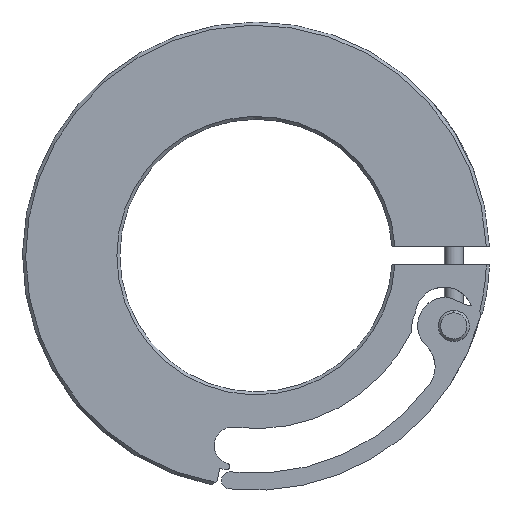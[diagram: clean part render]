
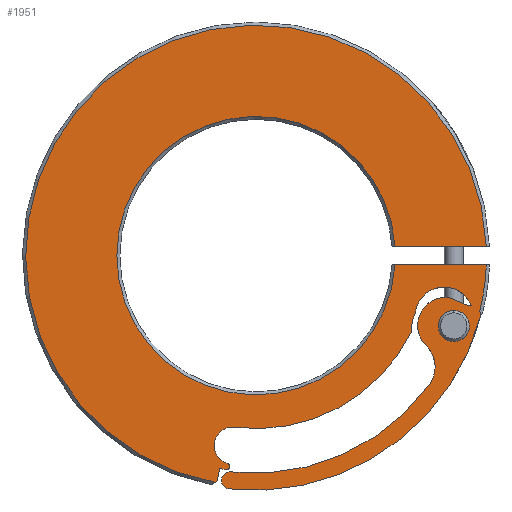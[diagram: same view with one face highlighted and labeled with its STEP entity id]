
A CAD part, front view. The second image highlights one B-rep face of the part: STEP entity #1951.
In plain terms, the highlighted planar face has unit normal (0, -1, 0).
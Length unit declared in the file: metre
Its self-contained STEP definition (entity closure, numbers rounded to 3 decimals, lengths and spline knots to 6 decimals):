
#330=CARTESIAN_POINT('',(-0.046163,0.005306,
0.029751));
#332=CARTESIAN_POINT('',(-0.052796,0.005306,
0.026042));
#333=DIRECTION('',(0.,-1.,0.));
#334=DIRECTION('',(0.049,0.,0.999));
#335=AXIS2_PLACEMENT_3D('',#332,#333,#334);
#337=CARTESIAN_POINT('',(-0.052796,0.005306,
0.026042));
#338=DIRECTION('',(0.,-1.,0.));
#339=DIRECTION('',(-0.049,0.,-0.999));
#340=AXIS2_PLACEMENT_3D('',#337,#338,#339);
#342=CARTESIAN_POINT('',(-0.048449,0.005306,
0.0288));
#343=DIRECTION('',(0.,1.,0.));
#344=DIRECTION('',(-0.187,0.,0.982));
#345=AXIS2_PLACEMENT_3D('',#342,#343,#344);
#347=CARTESIAN_POINT('',(-0.056673,0.005306,
0.024663));
#348=DIRECTION('',(0.,-1.,0.));
#349=DIRECTION('',(0.785,0.,0.62));
#350=AXIS2_PLACEMENT_3D('',#347,#348,#349);
#352=CARTESIAN_POINT('',(-0.055282,0.005306,
0.028534));
#353=DIRECTION('',(0.,-1.,0.));
#354=DIRECTION('',(0.927,0.,0.375));
#355=AXIS2_PLACEMENT_3D('',#352,#353,#354);
#357=CARTESIAN_POINT('',(-0.05426,0.005306,
0.025171));
#358=DIRECTION('',(0.,-1.,0.));
#359=DIRECTION('',(-0.901,0.,0.435));
#360=AXIS2_PLACEMENT_3D('',#357,#358,#359);
#362=CARTESIAN_POINT('',(-0.103583,0.005306,
0.044104));
#363=DIRECTION('',(0.,1.,0.));
#364=DIRECTION('',(0.899,0.,-0.439));
#365=AXIS2_PLACEMENT_3D('',#362,#363,#364);
#367=CARTESIAN_POINT('',(-0.109579,0.005306,
-0.004729));
#368=DIRECTION('',(0.,-1.,0.));
#369=DIRECTION('',(0.053,0.,0.999));
#370=AXIS2_PLACEMENT_3D('',#367,#368,#369);
#372=CARTESIAN_POINT('',(-0.111195,0.005306,
-0.010058));
#373=DIRECTION('',(0.,1.,0.));
#374=DIRECTION('',(0.29,0.,0.957));
#375=AXIS2_PLACEMENT_3D('',#372,#373,#374);
#377=CARTESIAN_POINT('',(-0.103583,0.005306,
0.044104));
#378=DIRECTION('',(0.,1.,0.));
#379=DIRECTION('',(-0.138,0.,-0.99));
#380=AXIS2_PLACEMENT_3D('',#377,#378,#379);
#382=DIRECTION('',(-0.199,0.,-0.98));
#383=VECTOR('',#382,0.003233);
#384=CARTESIAN_POINT('',(-0.112916,0.005306,
-0.010605));
#385=LINE('',#384,#383);
#386=DIRECTION('',(-0.834,0.,-0.552));
#387=VECTOR('',#386,0.000663);
#388=CARTESIAN_POINT('',(-0.11356,0.005306,
-0.013773));
#389=LINE('',#388,#387);
#390=CARTESIAN_POINT('',(-0.103583,0.005306,
0.044104));
#391=DIRECTION('',(0.,1.,0.));
#392=DIRECTION('',(-0.178,0.,-0.984));
#393=AXIS2_PLACEMENT_3D('',#390,#391,#392);
#395=DIRECTION('',(-1.,0.,0.));
#396=VECTOR('',#395,0.023457);
#397=CARTESIAN_POINT('',(-0.044444,0.005306,
0.046485));
#398=LINE('',#397,#396);
#399=CARTESIAN_POINT('',(-0.103583,0.005306,
0.044104));
#400=DIRECTION('',(0.,-1.,0.));
#401=DIRECTION('',(0.998,0.,0.067));
#402=AXIS2_PLACEMENT_3D('',#399,#400,#401);
#404=CARTESIAN_POINT('',(-0.103583,0.005306,
0.044104));
#405=DIRECTION('',(0.,1.,0.));
#406=DIRECTION('',(0.999,0.,-0.04));
#407=AXIS2_PLACEMENT_3D('',#404,#405,#406);
#409=CARTESIAN_POINT('',(-0.048449,0.005306,
0.0288));
#410=DIRECTION('',(0.,1.,0.));
#411=DIRECTION('',(0.923,0.,0.384));
#412=AXIS2_PLACEMENT_3D('',#409,#410,#411);
#414=CARTESIAN_POINT('',(-0.103976,0.005306,
0.043825));
#415=DIRECTION('',(0.,1.,0.));
#416=DIRECTION('',(0.965,0.,-0.261));
#417=AXIS2_PLACEMENT_3D('',#414,#415,#416);
#419=CARTESIAN_POINT('',(-0.110313,0.005306,
-0.013642));
#420=DIRECTION('',(0.,1.,0.));
#421=DIRECTION('',(-0.049,0.,-0.999));
#422=AXIS2_PLACEMENT_3D('',#419,#420,#421);
#424=CARTESIAN_POINT('',(-0.103976,0.005306,
0.043825));
#425=DIRECTION('',(0.,-1.,0.));
#426=DIRECTION('',(-0.11,0.,-0.994));
#427=AXIS2_PLACEMENT_3D('',#424,#425,#426);
#429=CARTESIAN_POINT('',(-0.065213,0.005306,
0.015504));
#430=DIRECTION('',(0.,-1.,0.));
#431=DIRECTION('',(0.807,0.,-0.59));
#432=AXIS2_PLACEMENT_3D('',#429,#430,#431);
#434=CARTESIAN_POINT('',(-0.054839,0.005306,
0.026142));
#435=DIRECTION('',(0.,1.,0.));
#436=DIRECTION('',(-0.698,0.,-0.716));
#437=AXIS2_PLACEMENT_3D('',#434,#435,#436);
#439=DIRECTION('',(0.922,0.,-0.387));
#440=VECTOR('',#439,0.005374);
#441=CARTESIAN_POINT('',(-0.053866,0.005306,
0.033315));
#442=LINE('',#441,#440);
#765=CARTESIAN_POINT('',(-0.044444,0.005306,
0.041723));
#767=DIRECTION('',(-1.,0.,0.));
#768=VECTOR('',#767,0.023457);
#769=CARTESIAN_POINT('',(-0.044444,0.005306,
0.041723));
#770=LINE('',#769,#768);
#902=CARTESIAN_POINT('',(-0.0679,0.005306,
0.046485));
#936=CARTESIAN_POINT('',(-0.114113,0.005306,
-0.014139));
#1373=CARTESIAN_POINT('',(-0.053866,0.005306,
0.033315));
#1374=VERTEX_POINT('',#1373);
#1375=CARTESIAN_POINT('',(-0.059893,0.005306,
0.020959));
#1376=VERTEX_POINT('',#1375);
#1385=CARTESIAN_POINT('',(-0.052601,0.005306,
0.030037));
#1386=CARTESIAN_POINT('',(-0.05299,0.005306,
0.022047));
#1387=VERTEX_POINT('',#1385);
#1388=VERTEX_POINT('',#1386);
#1389=CARTESIAN_POINT('',(-0.048911,0.005306,
0.031233));
#1390=VERTEX_POINT('',#1389);
#1391=CARTESIAN_POINT('',(-0.059061,0.005306,
0.011009));
#1392=VERTEX_POINT('',#1391);
#1397=CARTESIAN_POINT('',(-0.046059,0.005306,
0.028153));
#1398=CARTESIAN_POINT('',(-0.110419,0.005306,
-0.015828));
#1399=VERTEX_POINT('',#1397);
#1400=VERTEX_POINT('',#1398);
#1429=CARTESIAN_POINT('',(-0.110073,0.005306,
-0.011466));
#1430=VERTEX_POINT('',#1429);
#1447=VERTEX_POINT('',#902);
#1448=CARTESIAN_POINT('',(-0.044444,0.005306,
0.046485));
#1449=VERTEX_POINT('',#1448);
#1485=VERTEX_POINT('',#936);
#1486=CARTESIAN_POINT('',(-0.11356,0.005306,
-0.013773));
#1487=VERTEX_POINT('',#1486);
#1488=CARTESIAN_POINT('',(-0.062724,0.005306,
0.029255));
#1489=CARTESIAN_POINT('',(-0.063641,0.005306,
0.0246));
#1490=VERTEX_POINT('',#1488);
#1491=VERTEX_POINT('',#1489);
#1492=CARTESIAN_POINT('',(-0.109328,0.005306,
0.000027));
#1493=CARTESIAN_POINT('',(-0.110961,0.005306,
-0.009287));
#1494=VERTEX_POINT('',#1492);
#1495=VERTEX_POINT('',#1493);
#1496=CARTESIAN_POINT('',(-0.111247,0.005306,
-0.010863));
#1497=CARTESIAN_POINT('',(-0.112916,0.005306,
-0.010605));
#1498=VERTEX_POINT('',#1496);
#1499=VERTEX_POINT('',#1497);
#1501=CARTESIAN_POINT('',(-0.048351,0.005306,
0.031338));
#1503=VERTEX_POINT('',#1501);
#1519=VERTEX_POINT('',#765);
#1520=CARTESIAN_POINT('',(-0.0679,0.005306,
0.041723));
#1521=VERTEX_POINT('',#1520);
#1589=CARTESIAN_POINT('',(-0.048299,0.005306,
0.031272));
#1590=VERTEX_POINT('',#1589);
#1593=VERTEX_POINT('',#330);
#1897=CARTESIAN_POINT('',(-0.079189,0.005306,
0.008545));
#1898=DIRECTION('',(0.,1.,0.));
#1899=DIRECTION('',(-0.049,0.,-0.999));
#1900=AXIS2_PLACEMENT_3D('',#1897,#1898,#1899);
#1901=PLANE('',#1900);
#1902=ORIENTED_EDGE('',*,*,#1872,.T.);
#1903=ORIENTED_EDGE('',*,*,#1804,.T.);
#1905=ORIENTED_EDGE('',*,*,#1904,.T.);
#1907=ORIENTED_EDGE('',*,*,#1906,.T.);
#1909=ORIENTED_EDGE('',*,*,#1908,.T.);
#1911=ORIENTED_EDGE('',*,*,#1910,.T.);
#1913=ORIENTED_EDGE('',*,*,#1912,.T.);
#1915=ORIENTED_EDGE('',*,*,#1914,.T.);
#1917=ORIENTED_EDGE('',*,*,#1916,.T.);
#1919=ORIENTED_EDGE('',*,*,#1918,.T.);
#1921=ORIENTED_EDGE('',*,*,#1920,.T.);
#1923=ORIENTED_EDGE('',*,*,#1922,.T.);
#1925=ORIENTED_EDGE('',*,*,#1924,.T.);
#1927=ORIENTED_EDGE('',*,*,#1926,.F.);
#1929=ORIENTED_EDGE('',*,*,#1928,.T.);
#1930=ORIENTED_EDGE('',*,*,#1890,.T.);
#1932=ORIENTED_EDGE('',*,*,#1931,.T.);
#1934=ORIENTED_EDGE('',*,*,#1933,.T.);
#1936=ORIENTED_EDGE('',*,*,#1935,.T.);
#1938=ORIENTED_EDGE('',*,*,#1937,.T.);
#1940=ORIENTED_EDGE('',*,*,#1939,.T.);
#1942=ORIENTED_EDGE('',*,*,#1941,.T.);
#1943=EDGE_LOOP('',(#1902,#1903,#1905,#1907,#1909,#1911,#1913,#1915,#1917,#1919,
#1921,#1923,#1925,#1927,#1929,#1930,#1932,#1934,#1936,#1938,#1940,#1942));
#1944=FACE_OUTER_BOUND('',#1943,.F.);
#1946=ORIENTED_EDGE('',*,*,#1945,.T.);
#1948=ORIENTED_EDGE('',*,*,#1947,.T.);
#1949=EDGE_LOOP('',(#1946,#1948));
#1950=FACE_BOUND('',#1949,.F.);
#336=CIRCLE('',#335,0.004);
#341=CIRCLE('',#340,0.004);
#346=CIRCLE('',#345,0.002476);
#351=CIRCLE('',#350,0.010668);
#356=CIRCLE('',#355,0.007477);
#361=CIRCLE('',#360,0.009398);
#366=CIRCLE('',#365,0.04445);
#371=CIRCLE('',#370,0.004763);
#376=CIRCLE('',#375,0.000807);
#381=CIRCLE('',#380,0.055499);
#394=CIRCLE('',#393,0.059187);
#403=CIRCLE('',#402,0.035762);
#408=CIRCLE('',#407,0.059187);
#413=CIRCLE('',#412,0.002476);
#418=CIRCLE('',#417,0.06);
#423=CIRCLE('',#422,0.002189);
#428=CIRCLE('',#427,0.055626);
#433=CIRCLE('',#432,0.00762);
#438=CIRCLE('',#437,0.007239);
#1804=EDGE_CURVE('',#1590,#1503,#351,.T.);
#1872=EDGE_CURVE('',#1390,#1590,#346,.T.);
#1890=EDGE_CURVE('',#1593,#1399,#413,.T.);
#1904=EDGE_CURVE('',#1503,#1490,#356,.T.);
#1906=EDGE_CURVE('',#1490,#1491,#361,.T.);
#1908=EDGE_CURVE('',#1491,#1494,#366,.T.);
#1910=EDGE_CURVE('',#1494,#1495,#371,.T.);
#1912=EDGE_CURVE('',#1495,#1498,#376,.T.);
#1914=EDGE_CURVE('',#1498,#1499,#381,.T.);
#1916=EDGE_CURVE('',#1499,#1487,#385,.T.);
#1918=EDGE_CURVE('',#1487,#1485,#389,.T.);
#1920=EDGE_CURVE('',#1485,#1449,#394,.T.);
#1922=EDGE_CURVE('',#1449,#1447,#398,.T.);
#1924=EDGE_CURVE('',#1447,#1521,#403,.T.);
#1926=EDGE_CURVE('',#1519,#1521,#770,.T.);
#1928=EDGE_CURVE('',#1519,#1593,#408,.T.);
#1931=EDGE_CURVE('',#1399,#1400,#418,.T.);
#1933=EDGE_CURVE('',#1400,#1430,#423,.T.);
#1935=EDGE_CURVE('',#1430,#1392,#428,.T.);
#1937=EDGE_CURVE('',#1392,#1376,#433,.T.);
#1939=EDGE_CURVE('',#1376,#1374,#438,.T.);
#1941=EDGE_CURVE('',#1374,#1390,#442,.T.);
#1945=EDGE_CURVE('',#1387,#1388,#336,.T.);
#1947=EDGE_CURVE('',#1388,#1387,#341,.T.);
#1951=ADVANCED_FACE('',(#1944,#1950),#1901,.F.);
